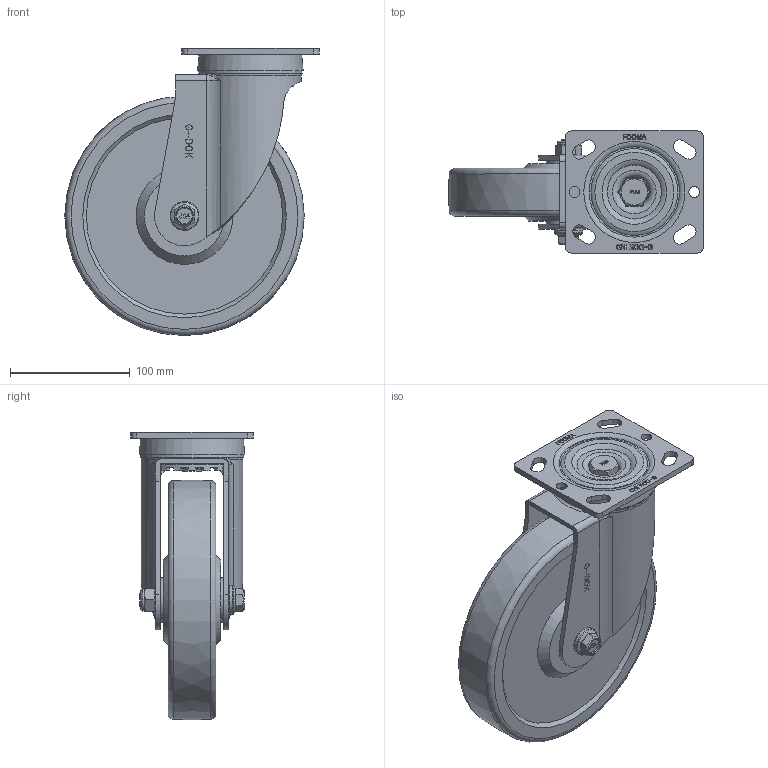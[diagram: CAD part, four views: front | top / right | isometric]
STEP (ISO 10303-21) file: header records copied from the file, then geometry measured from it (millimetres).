
FILE_DESCRIPTION(/* description */ (''),/* implementation_level */ '2;1');
FILE_NAME(/* name */ '\\192.168.10.38\지덕공유\1.기술연구소\2.연구개발 진행중\28.PLM-SERIES_MEDIUM\제품설계\홈페이지용 도면\PLM-200-ASF-MCD.stp',/* time_stamp */ '2022-03-04T18:38:46+09:00',/* author */ ('admin'),/* organization */ (''),/* preprocessor_version */ 'ST-DEVELOPER v18.1',/* originating_system */ 'Autodesk Inventor 2021',/* authorisation */ '');
FILE_SCHEMA (('AUTOMOTIVE_DESIGN { 1 0 10303 214 3 1 1 }'));
Length unit declared in the file: millimetre
Products named in the file (1): PLM-200-ASF-MCD
Bounding box: 212.5 x 102 x 239.97 mm (x, y, z)
Volume: 1457070.3 mm3; surface area: 173691.1 mm2
Topology: 1 solids, 1 shells, 1049 faces, 2894 edges, 1910 vertices
Faces by surface type: plane 725, bspline 142, cylinder 118, cone 36, torus 28
Full cylindrical faces by diameter (mm): 9 x2, 12 x1, 14 x1, 16 x1, 18.5 x1, 24 x1, 37 x2, 64.8 x1, 72.8 x1, 85.857 x1
Entity records: 36446 total; most frequent: CARTESIAN_POINT 10928, ORIENTED_EDGE 5780, DIRECTION 4469, EDGE_CURVE 2890, LINE 2041, VECTOR 2041, VERTEX_POINT 1910, AXIS2_PLACEMENT_3D 1214
